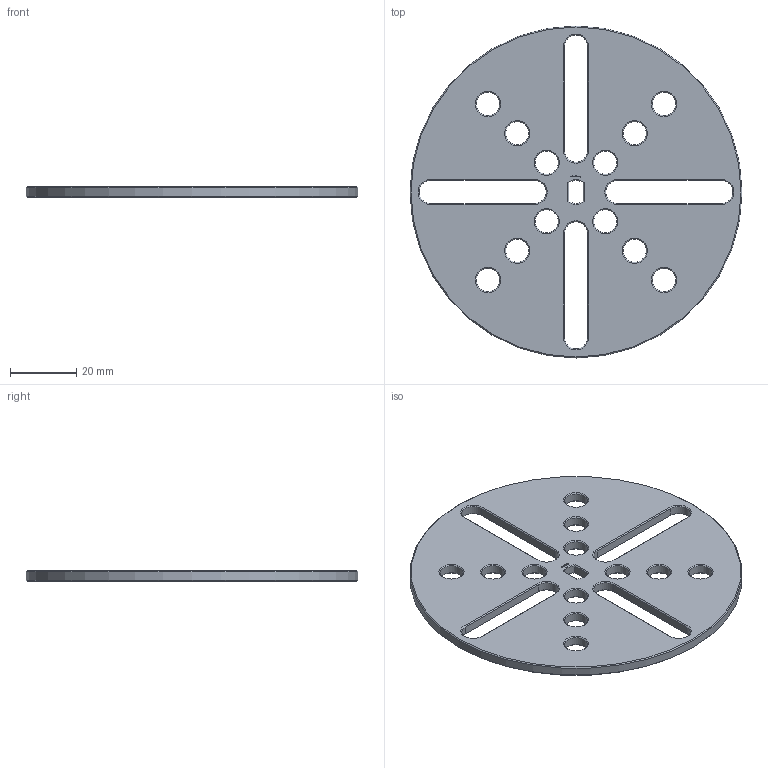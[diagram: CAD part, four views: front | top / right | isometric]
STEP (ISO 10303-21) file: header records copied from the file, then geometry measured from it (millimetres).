
FILE_DESCRIPTION(/* description */ (''),/* implementation_level */ '2;1');
FILE_NAME(/* name */ '/Users/paulokiefe/Desktop/STEMFIE/Fasteners/Washers/Fixed/Washer WSR FXD BU0.25x8.00 - SPN-WSR-0029 v1.step',/* time_stamp */ '2020-09-27T23:21:40+02:00',/* author */ (''),/* organization */ (''),/* preprocessor_version */ 'ST-DEVELOPER v18.1',/* originating_system */ 'Autodesk Translation Framework v9.3.0.1241',/* authorisation */ '');
FILE_SCHEMA (('AUTOMOTIVE_DESIGN { 1 0 10303 214 3 1 1 }'));
Length unit declared in the file: millimetre
Products named in the file (1): Washer WSR FXD BU0.25x8.00 - SPN-WSR-0029
Bounding box: 100 x 100 x 3.12 mm (x, y, z)
Volume: 19710.4 mm3; surface area: 15270.8 mm2
Topology: 1 solids, 1 shells, 345 faces, 927 edges, 596 vertices
Faces by surface type: plane 276, cone 46, cylinder 23
Full cylindrical faces by diameter (mm): 7 x12, 100 x1
Entity records: 10674 total; most frequent: CARTESIAN_POINT 1893, ORIENTED_EDGE 1854, DIRECTION 1703, EDGE_CURVE 927, LINE 827, VECTOR 827, VERTEX_POINT 596, AXIS2_PLACEMENT_3D 438
